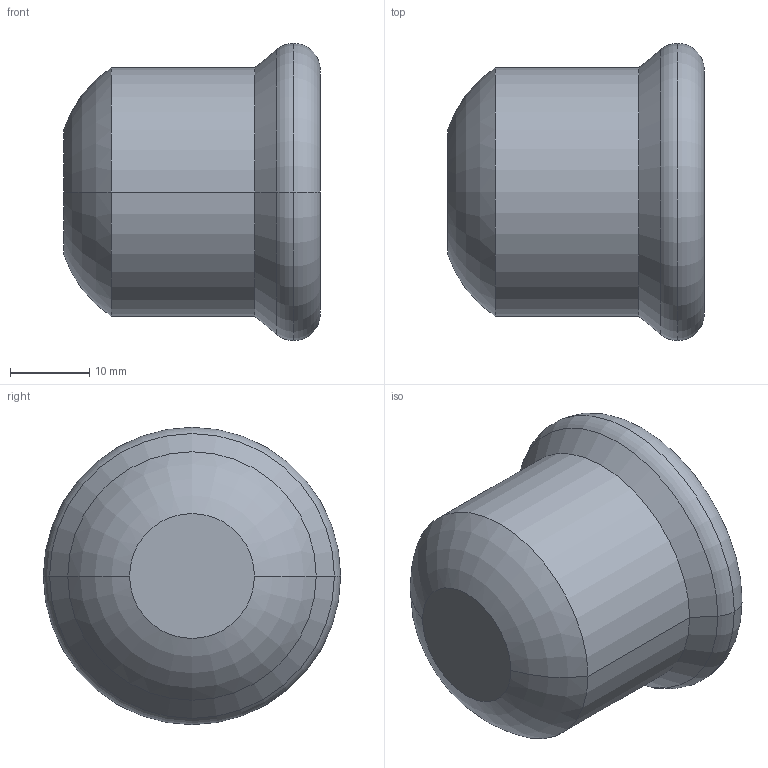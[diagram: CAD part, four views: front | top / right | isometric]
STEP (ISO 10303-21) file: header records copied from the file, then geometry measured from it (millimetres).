
FILE_DESCRIPTION(('CoCreate Modeling STEP Export'),'2;1');
FILE_NAME('C1429 28.stp','2014-11-12T16:08:50',(''),(''),'CoCreate Modeling STEP processor for AP214 (Solid Model)','CoCreate Modeling 17.00A 17-Jun-2010 (C) Parametric Technology GmbH','');
FILE_SCHEMA(('AUTOMOTIVE_DESIGN { 1 0 10303 214 1 1 1 1 }'));
Length unit declared in the file: millimetre
Products named in the file (2): C1429_28
Assembly tree (1 placements, depth 2):
  C1429_28
    C1429_28
Bounding box: 32.3 x 37.45 x 37.45 mm (x, y, z)
Volume: 9225.6 mm3; surface area: 7071.1 mm2
Topology: 1 solids, 1 shells, 21 faces, 42 edges, 26 vertices
Faces by surface type: cylinder 8, torus 6, plane 5, cone 2
Entity records: 490 total; most frequent: ORIENTED_EDGE 84, DIRECTION 74, CARTESIAN_POINT 68, EDGE_CURVE 42, AXIS2_PLACEMENT_3D 32, VERTEX_POINT 26, EDGE_LOOP 24, FACE_OUTER_BOUND 21
